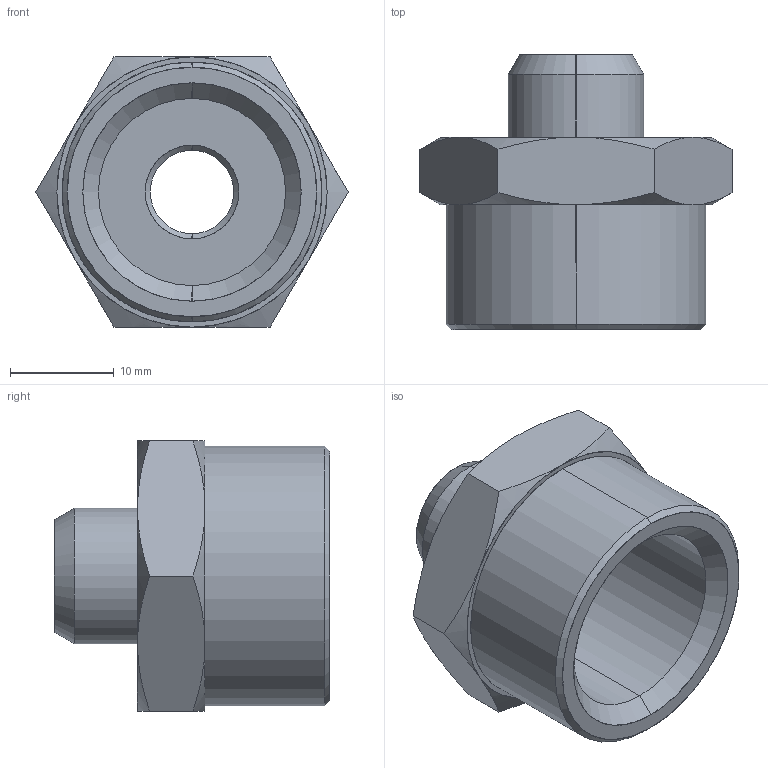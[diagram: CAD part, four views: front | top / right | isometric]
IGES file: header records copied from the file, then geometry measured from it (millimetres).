
Start section: SolidWorks IGES file using analytic representation for surfaces
Global section: file name: K:\Disegni Esecutivi\Accessori\2050\0205000018W00.IGS; native system: SolidWorks 2007; preprocessor: SolidWorks 2007; author: cad02; date: 071018.115758; units: millimetre
Bounding box: 30.02 x 26.5 x 26 mm (x, y, z)
Surface area: 3918.1 mm2 (no closed solid volume)
Topology: 0 solids, 0 shells, 41 faces, 640 edges, 640 vertices
Faces by surface type: revolution 30, bspline 11
